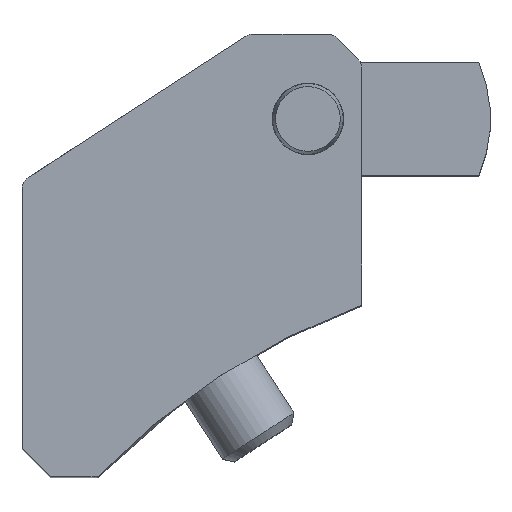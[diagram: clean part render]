
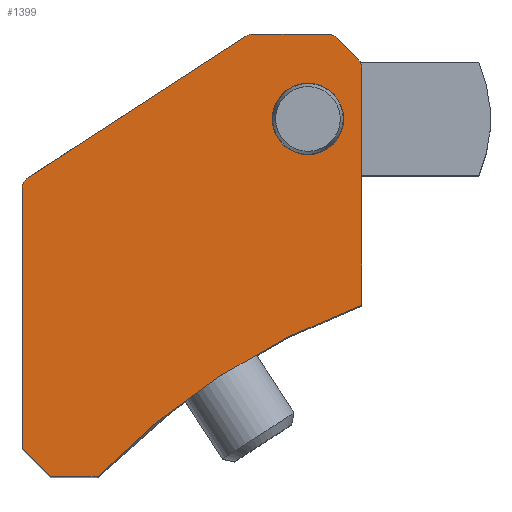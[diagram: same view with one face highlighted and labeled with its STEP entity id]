
A CAD part, top view. The second image highlights one B-rep face of the part: STEP entity #1399.
In plain terms, the highlighted planar face has unit normal (0, 0, 1).
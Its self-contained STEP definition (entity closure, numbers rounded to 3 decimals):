
#86=LINE('',#2249,#186);
#113=LINE('',#2332,#213);
#116=LINE('',#2340,#216);
#119=LINE('',#2348,#219);
#131=LINE('',#2386,#231);
#133=LINE('',#2390,#233);
#136=LINE('',#2394,#236);
#186=VECTOR('',#1755,9.162);
#213=VECTOR('',#1830,8.372);
#216=VECTOR('',#1839,1.);
#219=VECTOR('',#1848,2.609);
#231=VECTOR('',#1890,1.653);
#233=VECTOR('',#1894,1.414);
#236=VECTOR('',#1899,9.159);
#284=PLANE('',#1539);
#333=FACE_BOUND('',#517,.T.);
#334=FACE_BOUND('',#518,.T.);
#517=EDGE_LOOP('',(#1201));
#518=EDGE_LOOP('',(#1202,#1203,#1204,#1205,#1206,#1207,#1208,#1209,#1210,
#1211,#1212,#1213));
#546=CIRCLE('',#1490,0.5);
#550=CIRCLE('',#1496,25.);
#562=CIRCLE('',#1513,0.5);
#563=CIRCLE('',#1516,0.5);
#564=CIRCLE('',#1519,0.5);
#565=CIRCLE('',#1521,1.26);
#645=VERTEX_POINT('',#2246);
#646=VERTEX_POINT('',#2248);
#653=VERTEX_POINT('',#2266);
#659=VERTEX_POINT('',#2282);
#660=VERTEX_POINT('',#2284);
#678=VERTEX_POINT('',#2330);
#679=VERTEX_POINT('',#2334);
#680=VERTEX_POINT('',#2338);
#681=VERTEX_POINT('',#2342);
#682=VERTEX_POINT('',#2346);
#683=VERTEX_POINT('',#2352);
#693=VERTEX_POINT('',#2385);
#694=VERTEX_POINT('',#2389);
#791=EDGE_CURVE('',#645,#646,#86,.T.);
#801=EDGE_CURVE('',#653,#645,#546,.T.);
#809=EDGE_CURVE('',#659,#660,#550,.T.);
#834=EDGE_CURVE('',#678,#659,#113,.T.);
#836=EDGE_CURVE('',#679,#678,#562,.T.);
#838=EDGE_CURVE('',#680,#679,#116,.T.);
#840=EDGE_CURVE('',#681,#680,#563,.T.);
#842=EDGE_CURVE('',#682,#681,#119,.T.);
#843=EDGE_CURVE('',#646,#682,#564,.T.);
#844=EDGE_CURVE('',#683,#683,#565,.T.);
#860=EDGE_CURVE('',#660,#693,#131,.T.);
#862=EDGE_CURVE('',#693,#694,#133,.T.);
#865=EDGE_CURVE('',#694,#653,#136,.T.);
#1201=ORIENTED_EDGE('',*,*,#844,.T.);
#1202=ORIENTED_EDGE('',*,*,#840,.F.);
#1203=ORIENTED_EDGE('',*,*,#842,.F.);
#1204=ORIENTED_EDGE('',*,*,#843,.F.);
#1205=ORIENTED_EDGE('',*,*,#791,.F.);
#1206=ORIENTED_EDGE('',*,*,#801,.F.);
#1207=ORIENTED_EDGE('',*,*,#865,.F.);
#1208=ORIENTED_EDGE('',*,*,#862,.F.);
#1209=ORIENTED_EDGE('',*,*,#860,.F.);
#1210=ORIENTED_EDGE('',*,*,#809,.F.);
#1211=ORIENTED_EDGE('',*,*,#834,.F.);
#1212=ORIENTED_EDGE('',*,*,#836,.F.);
#1213=ORIENTED_EDGE('',*,*,#838,.F.);
#1399=ADVANCED_FACE('',(#333,#334),#284,.T.);
#1490=AXIS2_PLACEMENT_3D('',#2268,#1769,#1770);
#1496=AXIS2_PLACEMENT_3D('',#2285,#1785,#1786);
#1513=AXIS2_PLACEMENT_3D('',#2336,#1834,#1835);
#1516=AXIS2_PLACEMENT_3D('',#2344,#1843,#1844);
#1519=AXIS2_PLACEMENT_3D('',#2350,#1851,#1852);
#1521=AXIS2_PLACEMENT_3D('',#2353,#1855,#1856);
#1539=AXIS2_PLACEMENT_3D('',#2401,#1910,#1911);
#1755=DIRECTION('',(0.839,0.545,0.));
#1769=DIRECTION('center_axis',(0.,0.,-1.));
#1770=DIRECTION('ref_axis',(-0.545,0.839,0.));
#1785=DIRECTION('center_axis',(0.,0.,1.));
#1786=DIRECTION('ref_axis',(0.344,-0.939,0.));
#1830=DIRECTION('',(0.,-1.,0.));
#1834=DIRECTION('center_axis',(0.,0.,-1.));
#1835=DIRECTION('ref_axis',(1.,0.,0.));
#1839=DIRECTION('',(0.707,-0.707,0.));
#1843=DIRECTION('center_axis',(0.,0.,-1.));
#1844=DIRECTION('ref_axis',(0.707,0.707,0.));
#1848=DIRECTION('',(1.,0.,0.));
#1851=DIRECTION('center_axis',(0.,0.,-1.));
#1852=DIRECTION('ref_axis',(0.,1.,0.));
#1855=DIRECTION('center_axis',(0.,0.,-1.));
#1856=DIRECTION('ref_axis',(-1.,0.,0.));
#1890=DIRECTION('',(-1.,0.,0.));
#1894=DIRECTION('',(-0.707,0.707,0.));
#1899=DIRECTION('',(0.,1.,0.));
#1910=DIRECTION('center_axis',(0.,0.,1.));
#1911=DIRECTION('ref_axis',(1.,0.,0.));
#2246=CARTESIAN_POINT('',(-20.372,27.982,10.));
#2248=CARTESIAN_POINT('',(-12.688,32.972,10.));
#2249=CARTESIAN_POINT('',(-12.688,32.972,10.));
#2266=CARTESIAN_POINT('',(-20.6,27.563,10.));
#2268=CARTESIAN_POINT('Origin',(-20.1,27.563,10.));
#2282=CARTESIAN_POINT('',(-8.6,23.474,10.));
#2284=CARTESIAN_POINT('',(-17.947,17.404,10.));
#2285=CARTESIAN_POINT('Origin',(0.,0.,
10.));
#2330=CARTESIAN_POINT('',(-8.6,31.846,10.));
#2332=CARTESIAN_POINT('',(-8.6,23.474,10.));
#2334=CARTESIAN_POINT('',(-8.746,32.2,10.));
#2336=CARTESIAN_POINT('Origin',(-9.1,31.846,10.));
#2338=CARTESIAN_POINT('',(-9.454,32.907,10.));
#2340=CARTESIAN_POINT('',(-8.746,32.2,10.));
#2342=CARTESIAN_POINT('',(-9.807,33.053,10.));
#2344=CARTESIAN_POINT('Origin',(-9.807,32.553,10.));
#2346=CARTESIAN_POINT('',(-12.416,33.053,10.));
#2348=CARTESIAN_POINT('',(-9.807,33.053,10.));
#2350=CARTESIAN_POINT('Origin',(-12.416,32.553,10.));
#2352=CARTESIAN_POINT('',(-9.24,30.053,10.));
#2353=CARTESIAN_POINT('Origin',(-10.5,30.053,10.));
#2385=CARTESIAN_POINT('',(-19.6,17.404,10.));
#2386=CARTESIAN_POINT('',(-19.6,17.404,10.));
#2389=CARTESIAN_POINT('',(-20.6,18.404,10.));
#2390=CARTESIAN_POINT('',(-20.6,18.404,10.));
#2394=CARTESIAN_POINT('',(-20.6,27.563,10.));
#2401=CARTESIAN_POINT('Origin',(-14.772,25.473,10.));
